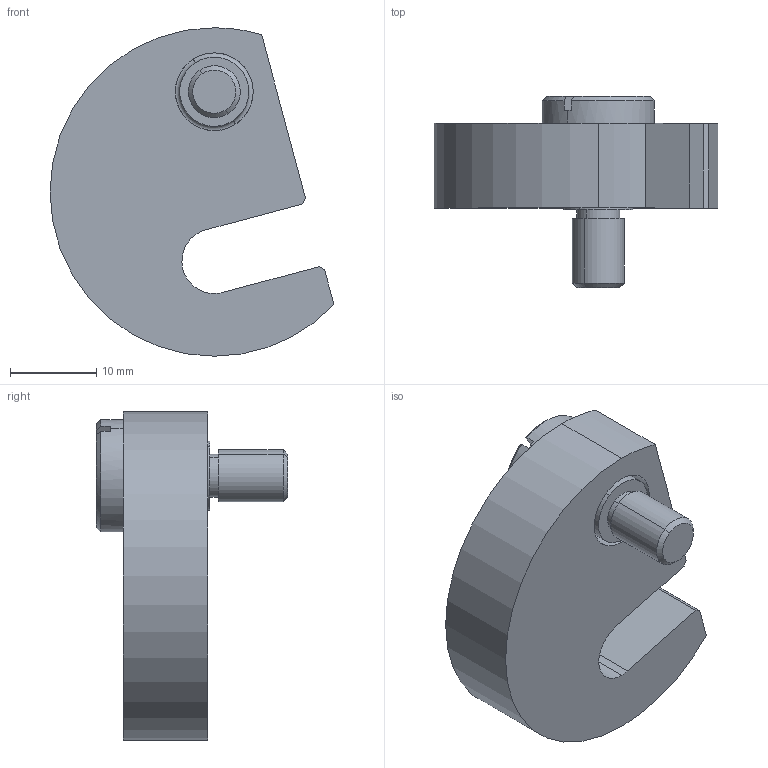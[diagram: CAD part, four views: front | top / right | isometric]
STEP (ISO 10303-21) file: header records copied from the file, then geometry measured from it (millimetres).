
FILE_DESCRIPTION (( 'STEP AP203' ), '1' );
FILE_NAME ('3662.W006.step', '2009-12-03T10:13:59', ( 'Wixroyd' ), ( 'Wixroyd' ), 'SwSTEP 2.0', 'SolidWorks 2009', '' );
FILE_SCHEMA (( 'CONFIG_CONTROL_DESIGN' ));
Length unit declared in the file: millimetre
Products named in the file (3): Part1_3662W006; Part2_3670W006; 3662.W006
Assembly tree (2 placements, depth 2):
  3662.W006
    Part1_3662W006
    Part2_3670W006
Bounding box: 32.84 x 22.1 x 38 mm (x, y, z)
Volume: 8505.3 mm3; surface area: 4004.5 mm2
Topology: 2 solids, 2 shells, 38 faces, 89 edges, 58 vertices
Faces by surface type: plane 17, cylinder 15, cone 4, torus 2
Entity records: 1416 total; most frequent: DIRECTION 213, CARTESIAN_POINT 202, ORIENTED_EDGE 178, EDGE_CURVE 89, AXIS2_PLACEMENT_3D 85, VERTEX_POINT 58, VECTOR 43, LINE 43
